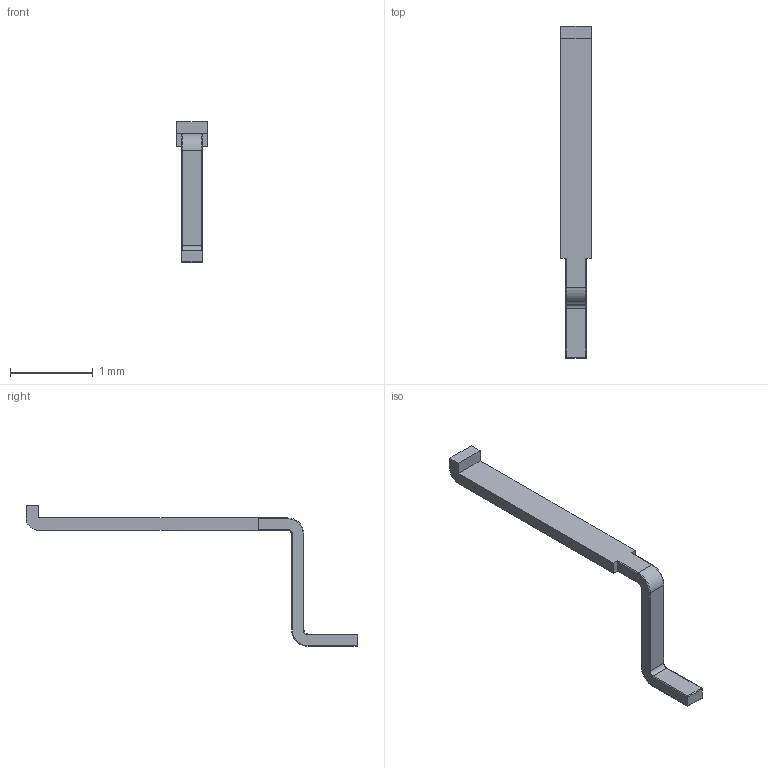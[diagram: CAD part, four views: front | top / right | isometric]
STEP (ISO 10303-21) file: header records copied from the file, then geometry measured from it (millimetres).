
FILE_DESCRIPTION(/* description */ ('STEP AP242 Edition 2','CAx-IF Rec.Pracs.---Representation and Presentation of Product Manufacturing Information (PMI)---4.0---2014-10-13','CAx-IF Rec.Pracs.---3D Tessellated Geometry---0.4---2014-09-14','2;1','CAx-IF Rec.Pracs.---User Defined Attributes---1.5---2016-08-15'),/* implementation_level */ '2;1');
FILE_NAME(/* name */ 'HIRO_Assembly - MicroUSB Port, Raspberry Pi Pico-R3 (2)',/* time_stamp */ '2026-11-04T05:23:19Z',/* author */ (''),/* organization */ (''),/* preprocessor_version */ 'ST-DEVELOPER v20',/* originating_system */ 'ONSHAPE BY PTC INC, 1.223',/* authorisation */ ' ');
FILE_SCHEMA (('AP242_MANAGED_MODEL_BASED_3D_ENGINEERING_MIM_LF { 1 0 10303 442 3 1 4 }'));
Length unit declared in the file: metre
Products named in the file (1): MicroUSB Port, Raspberry Pi Pico-R3
Bounding box: 0.37 x 4 x 1.7 mm (x, y, z)
Volume: 0.3 mm3; surface area: 5.1 mm2
Topology: 1 solids, 1 shells, 43 faces, 103 edges, 62 vertices
Faces by surface type: cylinder 19, plane 16, torus 8
Entity records: 1332 total; most frequent: DIRECTION 233, CARTESIAN_POINT 209, ORIENTED_EDGE 206, EDGE_CURVE 103, AXIS2_PLACEMENT_3D 86, VERTEX_POINT 62, LINE 61, VECTOR 61
